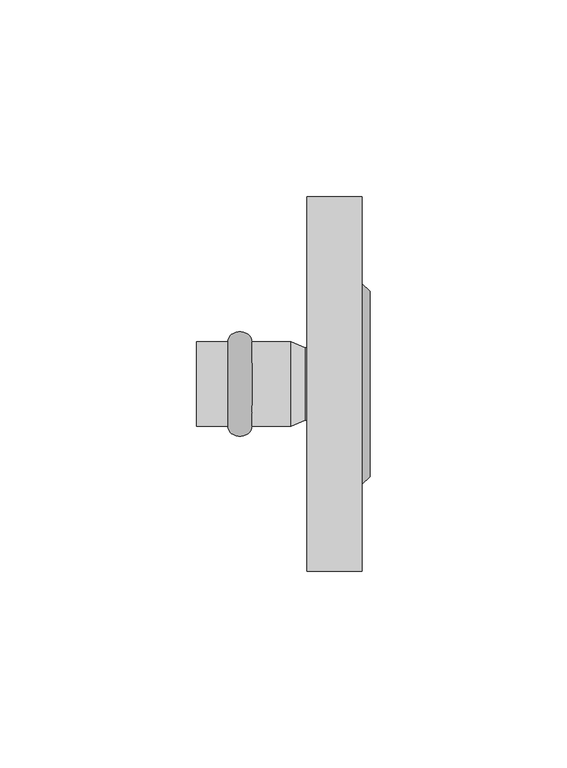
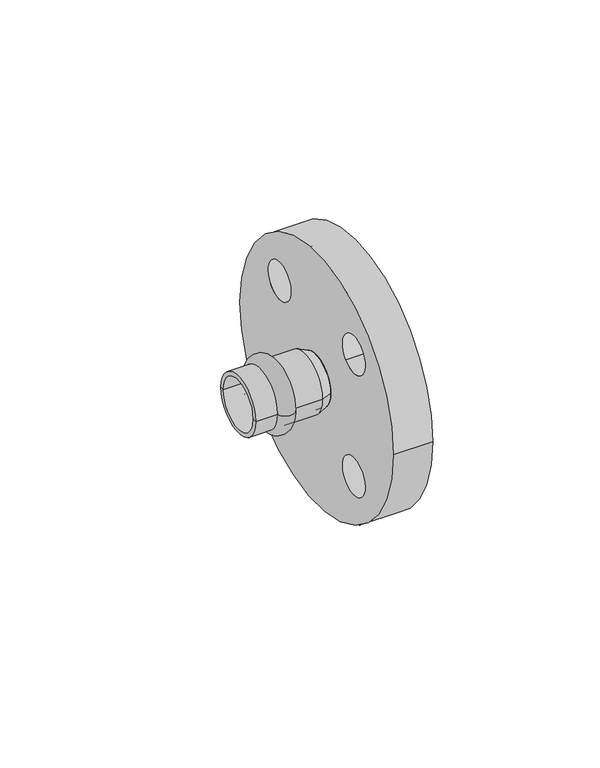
"""IFC4 building model written with IfcOpenShell, lengths in millimetres: pipe fitting geometry, РЕХАУ_Пресс Фланец : 18 x DN15."""

from ifc_helpers import new_model, si_unit, point, frame, frame_2d, origin, origin_2d, place, context, project, spatial, polyline, circle_curve, ellipse_curve, trimmed, segment, composite_curve, outline, extrude, source, transform, mapped, element, save
from ifc_brep_helpers import plane_surface, cylinder_surface, revolved_surface, advanced_brep


def pipe_fitting_1fefab08(model_context):
    return source(origin(), model_context, "Body", "SolidModel", [
        advanced_brep(
        [(-16.1, 10.75, 0.0), (-16.1, -10.75, 0.0), (-10.0, -10.75, 0.0), (-10.0, 10.75, 0.0)],
        [
            (0, 1, circle_curve(frame((-16.1, 0.0, 0.0), z_axis=(-1.0, 0.0, 0.0), x_axis=(0.0, -1.0, 0.0)), 10.75)),
            (1, 2),
            (2, 3, circle_curve(frame((-10.0, 0.0, 0.0), z_axis=(1.0, 0.0, 0.0), x_axis=(0.0, -1.0, 0.0)), 10.75)),
            (3, 0),
            (1, 0, circle_curve(frame((-16.1, 0.0, 0.0), z_axis=(-1.0, 0.0, 0.0), x_axis=(0.0, -1.0, 0.0)), 10.75)),
            (3, 2, circle_curve(frame((-10.0, 0.0, 0.0), z_axis=(1.0, 0.0, 0.0), x_axis=(0.0, -1.0, 0.0)), 10.75)),
            (2, 1, ellipse_curve(frame((-13.05, -10.75, 0.0), z_axis=(0.0, 0.0, -1.0), x_axis=(-1.0, 0.0, 0.0)), 3.05, 2.5)),
            (0, 3, ellipse_curve(frame((-13.05, 10.75, 0.0), z_axis=(0.0, 0.0, -1.0), x_axis=(-1.0, 0.0, 0.0)), 3.05, 2.5)),
        ],
        [
            revolved_surface(polyline([(-10.0, -10.75, 0.0), (-16.1, -10.75, 0.0)]), (3.0, 0.0, 0.0), (1.0, 0.0, 0.0)),
            revolved_surface(trimmed(ellipse_curve(frame((-13.05, -10.75, 0.0), z_axis=(0.0, 0.0, 1.0), x_axis=(-1.0, 0.0, 0.0)), 3.05, 2.5), [point((-16.1, -10.75, 0.0))], [point((-10.0, -10.75, 0.0))], True, "CARTESIAN"), (3.0, 0.0, 0.0), (1.0, 0.0, 0.0)),
        ],
        [
            (0, [[1, 2, 3, 4]]),
            (0, [[5, -4, 6, -2]]),
            (1, [[-3, 7, -1, 8]]),
            (1, [[-6, -8, -5, -7]]),
        ],
    ),
        advanced_brep(
        [(3.5337785, 9.25, 0.0), (3.5337785, -9.25, 0.0), (0.0, -10.75, 0.0), (0.0, 10.75, 0.0), (-24.0, 9.25, 0.0), (-24.0, -9.25, 0.0), (-24.0, 10.75, 0.0), (-24.0, -10.75, 0.0)],
        [
            (0, 1, circle_curve(frame((3.5337785, 0.0, 0.0), z_axis=(-1.0, 0.0, 0.0), x_axis=(0.0, -1.0, 0.0)), 9.25)),
            (1, 2),
            (2, 3, circle_curve(frame((0.0, 0.0, 0.0), z_axis=(1.0, 0.0, 0.0), x_axis=(0.0, -1.0, 0.0)), 10.75)),
            (3, 0),
            (1, 0, circle_curve(frame((3.5337785, 0.0, 0.0), z_axis=(-1.0, 0.0, 0.0), x_axis=(0.0, -1.0, 0.0)), 9.25)),
            (3, 2, circle_curve(frame((0.0, 0.0, 0.0), z_axis=(1.0, 0.0, 0.0), x_axis=(0.0, -1.0, 0.0)), 10.75)),
            (4, 5, circle_curve(frame((-24.0, 0.0, 0.0), z_axis=(-1.0, 0.0, 0.0), x_axis=(0.0, -1.0, 0.0)), 9.25)),
            (5, 1),
            (0, 4),
            (5, 4, circle_curve(frame((-24.0, 0.0, 0.0), z_axis=(-1.0, 0.0, 0.0), x_axis=(0.0, -1.0, 0.0)), 9.25)),
            (6, 7, circle_curve(frame((-24.0, 0.0, 0.0), z_axis=(-1.0, 0.0, 0.0), x_axis=(0.0, -1.0, 0.0)), 10.75)),
            (7, 5),
            (4, 6),
            (7, 6, circle_curve(frame((-24.0, 0.0, 0.0), z_axis=(-1.0, 0.0, 0.0), x_axis=(0.0, -1.0, 0.0)), 10.75)),
            (2, 7),
            (6, 3),
        ],
        [
            revolved_surface(polyline([(0.0, -10.75, 0.0), (3.5337785, -9.25, 0.0)]), (3.0, 0.0, 0.0), (1.0, 0.0, 0.0)),
            revolved_surface(polyline([(3.5337785, -9.25, 0.0), (-24.0, -9.25, 0.0)]), (3.0, 0.0, 0.0), (1.0, 0.0, 0.0)),
            plane_surface(frame((-24.0, 0.0, 0.0), z_axis=(-1.0, 0.0, 0.0), x_axis=(0.0, -1.0, 0.0))),
            cylinder_surface(frame((3.0, 0.0, 0.0), z_axis=(1.0, 0.0, 0.0), x_axis=(0.0, -1.0, 0.0)), 10.75),
        ],
        [
            (0, [[1, 2, 3, 4]]),
            (0, [[5, -4, 6, -2]]),
            (1, [[7, 8, -1, 9]]),
            (1, [[10, -9, -5, -8]]),
            (2, [[11, 12, -7, 13]]),
            (2, [[14, -13, -10, -12]]),
            (3, [[-3, 15, -11, 16]]),
            (3, [[-6, -16, -14, -15]]),
        ],
    ),
        advanced_brep(
        [(20.0, -23.5, 0.0), (20.0, 23.5, 0.0), (18.0, -25.5, 0.0), (18.0, 25.5, 0.0)],
        [
            (0, 1, circle_curve(frame((20.0, 0.0, 0.0), z_axis=(1.0, 0.0, 0.0), x_axis=(0.0, -1.0, 0.0)), 23.5)),
            (1, 0, circle_curve(frame((20.0, 0.0, 0.0), z_axis=(1.0, 0.0, 0.0), x_axis=(0.0, 1.0, 0.0)), 23.5)),
            (2, 3, circle_curve(frame((18.0, 0.0, 0.0), z_axis=(-1.0, 0.0, 0.0), x_axis=(0.0, 1.0, 0.0)), 25.5)),
            (3, 2, circle_curve(frame((18.0, 0.0, 0.0), z_axis=(-1.0, 0.0, 0.0), x_axis=(0.0, -1.0, 0.0)), 25.5)),
            (3, 1),
            (0, 2),
        ],
        [
            plane_surface(frame((20.0, 0.0, 0.0), z_axis=(1.0, 0.0, 0.0), x_axis=(0.0, 0.0, -1.0))),
            plane_surface(frame((18.0, 0.0, 0.0), z_axis=(-1.0, 0.0, 0.0), x_axis=(0.0, 0.0, -1.0))),
            revolved_surface(polyline([(20.0, -23.5, 0.0), (18.0, -25.5, 0.0)]), (43.5, 0.0, 0.0), (-1.0, 0.0, 0.0)),
            revolved_surface(polyline([(20.0, 23.5, 0.0), (18.0, 25.5, 0.0)]), (43.5, 0.0, 0.0), (-1.0, 0.0, 0.0)),
        ],
        [
            (0, [[1, 2]]),
            (1, [[3, 4]]),
            (2, [[-4, 5, -1, 6]]),
            (3, [[-3, -6, -2, -5]]),
        ],
    ),
        extrude(outline(composite_curve([segment(trimmed(circle_curve(origin_2d(), 47.5), [point((47.5, 0.0))], [point((-47.5, 0.0))], False, "CARTESIAN"), True, "CONTINUOUS"), segment(trimmed(circle_curve(origin_2d(), 47.5), [point((-47.5, 0.0))], [point((47.5, 0.0))], False, "CARTESIAN"), True, "CONTINUOUS")], self_intersect=False), holes=[composite_curve([segment(trimmed(circle_curve(frame_2d((22.9809704, 22.9809704)), 7.0), [point((18.0312229, 18.0312229))], [point((27.9307179, 27.9307179))], True, "CARTESIAN"), True, "CONTINUOUS"), segment(trimmed(circle_curve(frame_2d((22.9809704, 22.9809704)), 7.0), [point((27.9307179, 27.9307179))], [point((18.0312229, 18.0312229))], True, "CARTESIAN"), True, "CONTINUOUS")], self_intersect=False), composite_curve([segment(trimmed(circle_curve(frame_2d((22.9809704, -22.9809704)), 7.0), [point((18.0312229, -18.0312229))], [point((27.9307179, -27.9307179))], True, "CARTESIAN"), True, "CONTINUOUS"), segment(trimmed(circle_curve(frame_2d((22.9809704, -22.9809704)), 7.0), [point((27.9307179, -27.9307179))], [point((18.0312229, -18.0312229))], True, "CARTESIAN"), True, "CONTINUOUS")], self_intersect=False), composite_curve([segment(trimmed(circle_curve(frame_2d((-22.9809704, -22.9809704)), 7.0), [point((-18.0312229, -18.0312229))], [point((-27.9307179, -27.9307179))], True, "CARTESIAN"), True, "CONTINUOUS"), segment(trimmed(circle_curve(frame_2d((-22.9809704, -22.9809704)), 7.0), [point((-27.9307179, -27.9307179))], [point((-18.0312229, -18.0312229))], True, "CARTESIAN"), True, "CONTINUOUS")], self_intersect=False), composite_curve([segment(trimmed(circle_curve(frame_2d((-22.9809704, 22.9809704)), 7.0), [point((-18.0312229, 18.0312229))], [point((-27.9307179, 27.9307179))], True, "CARTESIAN"), True, "CONTINUOUS"), segment(trimmed(circle_curve(frame_2d((-22.9809704, 22.9809704)), 7.0), [point((-27.9307179, 27.9307179))], [point((-18.0312229, 18.0312229))], True, "CARTESIAN"), True, "CONTINUOUS")], self_intersect=False)]), frame((4.0, 0.0, 0.0), z_axis=(1.0, 0.0, 0.0), x_axis=(0.0, 1.0, 0.0)), (0.0, 0.0, 1.0), 14.0),
        extrude(outline(composite_curve([segment(trimmed(circle_curve(origin_2d(), 9.25), [point((-9.25, 0.0))], [point((9.25, 0.0))], False, "CARTESIAN"), True, "CONTINUOUS"), segment(trimmed(circle_curve(origin_2d(), 9.25), [point((9.25, 0.0))], [point((-9.25, 0.0))], False, "CARTESIAN"), True, "CONTINUOUS")], self_intersect=False)), frame((0.0, 0.0, 0.0), z_axis=(1.0, 0.0, 0.0), x_axis=(0.0, 1.0, 0.0)), (0.0, 0.0, 1.0), 4.0),
    ])


if __name__ == "__main__":
    model = new_model("IFC4")
    model_context = context("Model", 3, world=origin())
    ifc_project = project(units=[si_unit("LENGTHUNIT", "METRE", prefix="MILLI")], contexts=[model_context])
    site = spatial("IfcSite", under=ifc_project)
    building = spatial("IfcBuilding", under=site)
    placement = place(None, origin())
    pipe_fitting_shape = pipe_fitting_1fefab08(model_context)
    element("IfcPipeFitting", 1, ObjectType="РЕХАУ_Пресс Фланец : 18 x DN15", at=placement, inside=building, context=model_context, shape_type="MappedRepresentation", body=[
        mapped(pipe_fitting_shape, transform((0.0, 0.0, 0.0), x_axis=(1.0, 0.0, 0.0), y_axis=(0.0, 1.0, 0.0), z_axis=(0.0, 0.0, 1.0))),
    ])
    save(model, "model.ifc")
